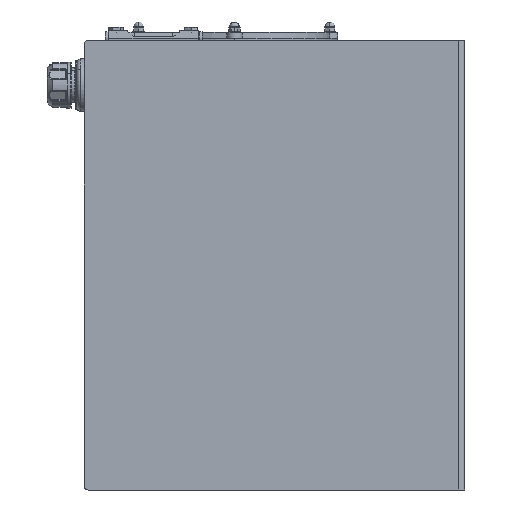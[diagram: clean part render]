
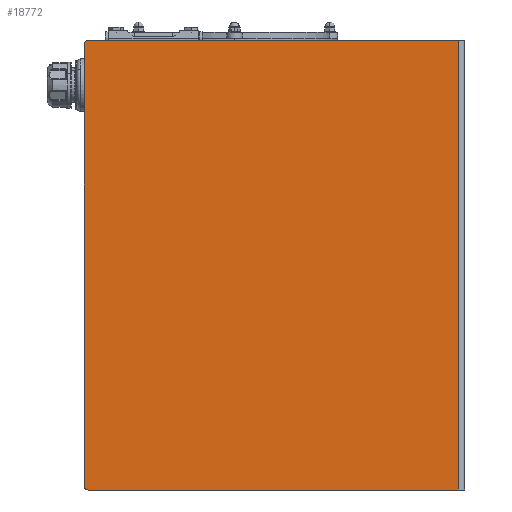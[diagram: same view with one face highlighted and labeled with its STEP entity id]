
A CAD part, left-side view. The second image highlights one B-rep face of the part: STEP entity #18772.
In plain terms, the highlighted planar face has unit normal (-1, 0, 0) as drawn and (0, 0, 1) by its records, which use the part's own axes.
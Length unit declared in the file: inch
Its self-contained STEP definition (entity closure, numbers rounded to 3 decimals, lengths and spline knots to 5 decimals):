
#4 = EDGE_CURVE ( 'NONE', #646, #13658, #21994, .T. ) ;
#619 = ORIENTED_EDGE ( 'NONE', *, *, #23303, .T. ) ;
#646 = VERTEX_POINT ( 'NONE', #15450 ) ;
#1348 = CIRCLE ( 'NONE', #21107, 0.25 ) ;
#1450 = CARTESIAN_POINT ( 'NONE',  ( 14.75, 12.4375, 0. ) ) ;
#1730 = CARTESIAN_POINT ( 'NONE',  ( -15., -12.6875, 0. ) ) ;
#3834 = EDGE_CURVE ( 'NONE', #17255, #20399, #34737, .T. ) ;
#4140 = CARTESIAN_POINT ( 'NONE',  ( -14.75, 12.6875, 0. ) ) ;
#4259 = DIRECTION ( 'NONE',  ( 0., 0., 1. ) ) ;
#4789 = VECTOR ( 'NONE', #10183, 39.37008 ) ;
#4856 = VECTOR ( 'NONE', #14875, 39.37008 ) ;
#6753 = EDGE_CURVE ( 'NONE', #27182, #646, #25954, .T. ) ;
#7004 = PLANE ( 'NONE',  #14351 ) ;
#8352 = CARTESIAN_POINT ( 'NONE',  ( -15., -12.2582, 0. ) ) ;
#9726 = DIRECTION ( 'NONE',  ( -1., 0., 0. ) ) ;
#10183 = DIRECTION ( 'NONE',  ( -1., 0., 0. ) ) ;
#10894 = ORIENTED_EDGE ( 'NONE', *, *, #6753, .T. ) ;
#13609 = CARTESIAN_POINT ( 'NONE',  ( 15., -12.2582, 0. ) ) ;
#13658 = VERTEX_POINT ( 'NONE', #13609 ) ;
#14351 = AXIS2_PLACEMENT_3D ( 'NONE', #28907, #18150, #14992 ) ;
#14750 = EDGE_CURVE ( 'NONE', #13658, #30070, #26300, .T. ) ;
#14875 = DIRECTION ( 'NONE',  ( 0., 1., 0. ) ) ;
#14992 = DIRECTION ( 'NONE',  ( -1., 0., 0. ) ) ;
#15450 = CARTESIAN_POINT ( 'NONE',  ( -15., -12.2582, 0. ) ) ;
#16338 = EDGE_CURVE ( 'NONE', #30070, #17255, #21788, .T. ) ;
#16696 = AXIS2_PLACEMENT_3D ( 'NONE', #1450, #4259, #9726 ) ;
#17255 = VERTEX_POINT ( 'NONE', #23969 ) ;
#17523 = ORIENTED_EDGE ( 'NONE', *, *, #16338, .T. ) ;
#17776 = EDGE_LOOP ( 'NONE', ( #33768, #17523, #32076, #619, #10894, #31324 ) ) ;
#18150 = DIRECTION ( 'NONE',  ( 0., 0., -1. ) ) ;
#18772 = ADVANCED_FACE ( 'NONE', ( #20122 ), #7004, .F. ) ;
#19793 = VECTOR ( 'NONE', #30268, 39.37008 ) ;
#20122 = FACE_OUTER_BOUND ( 'NONE', #17776, .T. ) ;
#20399 = VERTEX_POINT ( 'NONE', #4140 ) ;
#20453 = DIRECTION ( 'NONE',  ( 0., 0., 1. ) ) ;
#21107 = AXIS2_PLACEMENT_3D ( 'NONE', #33329, #20453, #31397 ) ;
#21788 = CIRCLE ( 'NONE', #16696, 0.25 ) ;
#21994 = LINE ( 'NONE', #8352, #19793 ) ;
#23205 = CARTESIAN_POINT ( 'NONE',  ( 15., 12.4375, 0. ) ) ;
#23303 = EDGE_CURVE ( 'NONE', #20399, #27182, #1348, .T. ) ;
#23625 = CARTESIAN_POINT ( 'NONE',  ( -15., 12.6875, 0. ) ) ;
#23969 = CARTESIAN_POINT ( 'NONE',  ( 14.75, 12.6875, 0. ) ) ;
#24105 = VECTOR ( 'NONE', #31599, 39.37008 ) ;
#25954 = LINE ( 'NONE', #1730, #24105 ) ;
#26300 = LINE ( 'NONE', #31596, #4856 ) ;
#27182 = VERTEX_POINT ( 'NONE', #31669 ) ;
#28907 = CARTESIAN_POINT ( 'NONE',  ( 0., 0., 0. ) ) ;
#30070 = VERTEX_POINT ( 'NONE', #23205 ) ;
#30268 = DIRECTION ( 'NONE',  ( 1., 0., 0. ) ) ;
#31324 = ORIENTED_EDGE ( 'NONE', *, *, #4, .T. ) ;
#31397 = DIRECTION ( 'NONE',  ( -1., 0., 0. ) ) ;
#31596 = CARTESIAN_POINT ( 'NONE',  ( 15., -12.6875, 0. ) ) ;
#31599 = DIRECTION ( 'NONE',  ( 0., -1., 0. ) ) ;
#31669 = CARTESIAN_POINT ( 'NONE',  ( -15., 12.4375, 0. ) ) ;
#32076 = ORIENTED_EDGE ( 'NONE', *, *, #3834, .T. ) ;
#33329 = CARTESIAN_POINT ( 'NONE',  ( -14.75, 12.4375, 0. ) ) ;
#33768 = ORIENTED_EDGE ( 'NONE', *, *, #14750, .T. ) ;
#34737 = LINE ( 'NONE', #23625, #4789 ) ;
